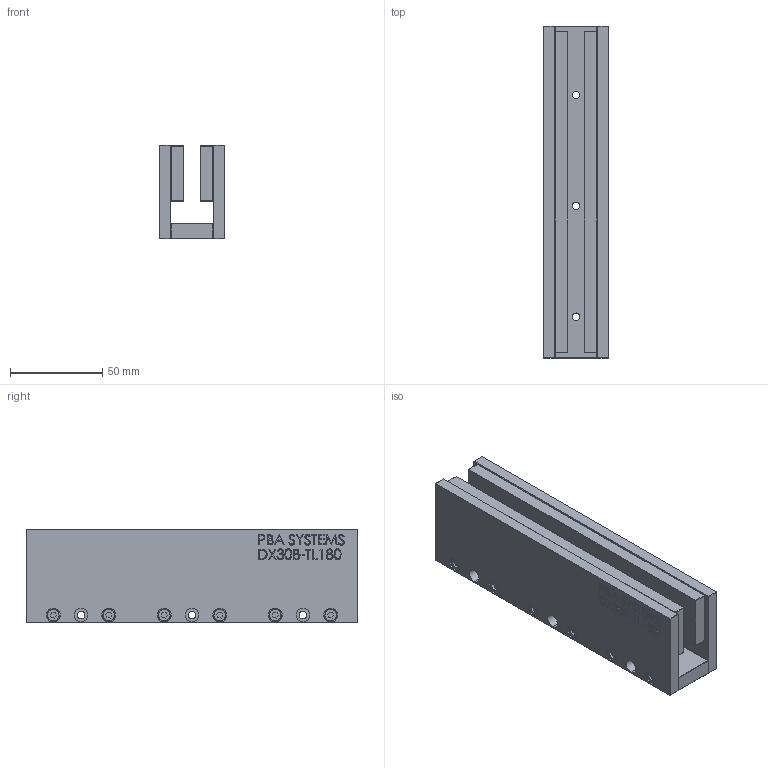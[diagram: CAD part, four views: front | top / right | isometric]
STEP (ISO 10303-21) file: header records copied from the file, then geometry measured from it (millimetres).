
FILE_DESCRIPTION (( 'STEP AP214' ), '1' );
FILE_NAME ('DX30B-TL180.STEP', '2016-05-11T09:04:47', ( '' ), ( '' ), 'SwSTEP 2.0', 'SolidWorks 2015', '' );
FILE_SCHEMA (( 'AUTOMOTIVE_DESIGN' ));
Length unit declared in the file: millimetre
Products named in the file (5): DX30B-0000-001_COUSTOMER_TL180; M4X12 DIN7984 STAINLESS STEEL; DX30B-TL180-002; DX30B-TL180-001_TL180; DX30B-TL180
Assembly tree (17 placements, depth 2):
  DX30B-TL180
    DX30B-TL180-001_TL180
    DX30B-TL180-002  x2
    M4X12 DIN7984 STAINLESS STEEL  x12
    DX30B-0000-001_COUSTOMER_TL180  x2
Bounding box: 35.7 x 179.5 x 50.8 mm (x, y, z)
Volume: 219977.5 mm3; surface area: 87504 mm2
Topology: 17 solids, 17 shells, 992 faces, 2494 edges, 1620 vertices
Faces by surface type: plane 522, bspline 250, cylinder 156, cone 24, torus 24, sphere 16
Entity records: 19991 total; most frequent: CARTESIAN_POINT 9859, ORIENTED_EDGE 2218, DIRECTION 1649, EDGE_CURVE 1109, VERTEX_POINT 730, VECTOR 713, LINE 713, EDGE_LOOP 509
